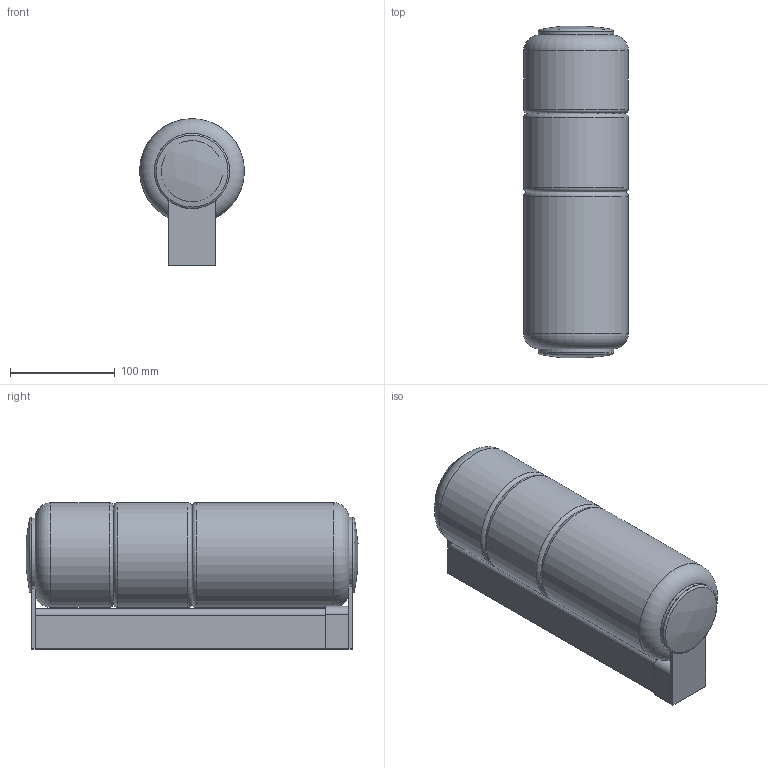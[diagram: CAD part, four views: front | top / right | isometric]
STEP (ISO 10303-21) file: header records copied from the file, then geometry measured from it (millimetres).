
FILE_DESCRIPTION(/* description */ ('APPLIQUE STACKING 30'),/* implementation_level */ '2;1');
FILE_NAME(/* name */ 'STACKING PL 30 EU.stp',/* time_stamp */ '2025-02-05T14:29:34+01:00',/* author */ ('davide.turci'),/* organization */ (''),/* preprocessor_version */ 'ST-DEVELOPER v20',/* originating_system */ 'Autodesk Inventor 2025',/* authorisation */ '');
FILE_SCHEMA (('CONFIG_CONTROL_DESIGN'));
Length unit declared in the file: millimetre
Products named in the file (27): 343AZ3LD; 343C667; 343C600_A1; 343C670; 00343C407-A; 00343V005; 00343V002; 00343V001; 00343C410; 00343C398; 343C439; B001; B002; ISO 4026 - M6 x 8(1); 343C668; 343C660-Master; 343C659; 343C657; X0023-020; 343C635-A; 343C671; RONDELLA DENTELLATA BRUNITA M4 UNI6798; DADO 4MA; 343C672; X0001; VITE TSP IMPRONTA CROCE M4X8 ZINCATA B.CA UNI7688; VITE TCB M3X10 UNI 7687
Assembly tree (31 placements, depth 3):
  343AZ3LD
    343C667
    343C600_A1
      343C670
      00343C407-A
      00343V005
      00343V002
      00343V001
      00343C410
      00343C398
    343C439
    B001
    B002
    ISO 4026 - M6 x 8(1)
    343C668
    343C660-Master
      343C659
      343C657
      X0023-020  x2
    343C635-A
    343C671
    RONDELLA DENTELLATA BRUNITA M4 UNI6798  x2
    DADO 4MA  x2
    343C672
    X0001
    VITE TCB M3X10 UNI 7687  x3
    VITE TSP IMPRONTA CROCE M4X8 ZINCATA B.CA UNI7688
Bounding box: 99.98 x 317.21 x 139.99 mm (x, y, z)
Volume: 632425.9 mm3; surface area: 514416.8 mm2
Topology: 29 solids, 29 shells, 800 faces, 2045 edges, 1331 vertices
Faces by surface type: plane 332, cylinder 310, cone 101, torus 49, sphere 8
Full cylindrical faces by diameter (mm): 2.459 x7, 2.75 x3, 3 x5, 3.2 x3, 3.242 x2, 3.4 x3, 3.5 x2, 4 x3, 4.5 x8, 4.917 x1, 5 x1, 5.917 x1, 6 x3, 7 x2, 7.5 x1, 8 x2, 9 x2, 10 x1, 10.5 x1, 12 x1, 12.5 x1, 12.917 x1, 13 x2, 14 x1, 15 x1, 54 x1, 55.5 x1, 60 x2, 61.5 x2, 62 x2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
Entity records: 20809 total; most frequent: DIRECTION 3701, CARTESIAN_POINT 3486, ORIENTED_EDGE 3216, EDGE_CURVE 1608, AXIS2_PLACEMENT_3D 1460, VERTEX_POINT 1048, LINE 781, VECTOR 781
